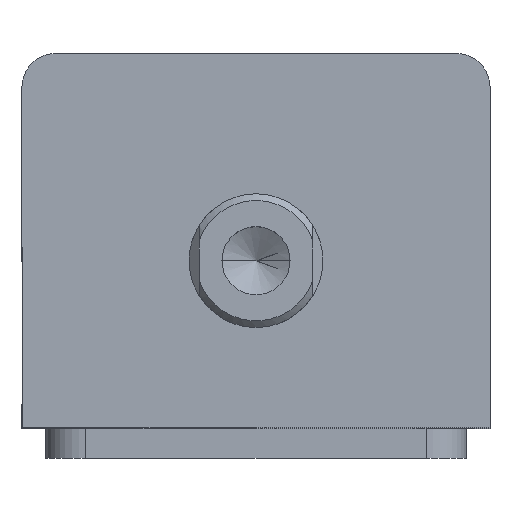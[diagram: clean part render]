
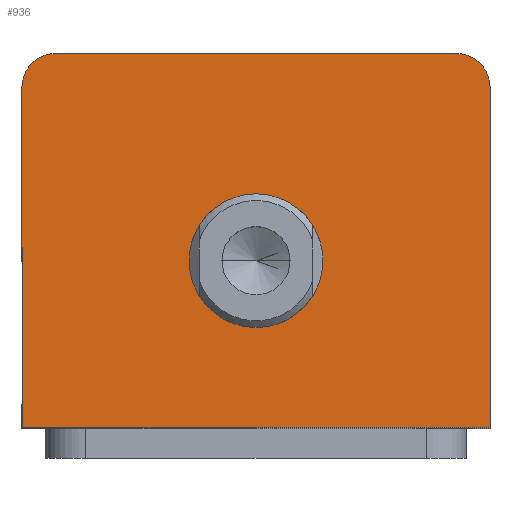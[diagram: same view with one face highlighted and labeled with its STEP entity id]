
A CAD part, top view. The second image highlights one B-rep face of the part: STEP entity #936.
In plain terms, the highlighted planar face has unit normal (0, 0, 1).
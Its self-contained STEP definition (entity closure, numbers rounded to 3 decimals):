
#16 = EDGE_LOOP ( 'NONE', ( #126, #1274, #85, #98, #1507, #1490 ) ) ;
#77 = ORIENTED_EDGE ( 'NONE', *, *, #2068, .F. ) ;
#85 = ORIENTED_EDGE ( 'NONE', *, *, #2054, .T. ) ;
#98 = ORIENTED_EDGE ( 'NONE', *, *, #1956, .T. ) ;
#126 = ORIENTED_EDGE ( 'NONE', *, *, #1972, .T. ) ;
#290 = AXIS2_PLACEMENT_3D ( 'NONE', #1710, #1708, #1706 ) ;
#304 = AXIS2_PLACEMENT_3D ( 'NONE', #1801, #1799, #1798 ) ;
#334 = AXIS2_PLACEMENT_3D ( 'NONE', #995, #994, #993 ) ;
#347 = AXIS2_PLACEMENT_3D ( 'NONE', #989, #991, #1251 ) ;
#505 = CARTESIAN_POINT ( 'NONE',  ( 30., 28., 74. ) ) ;
#516 = CARTESIAN_POINT ( 'NONE',  ( 35., 23., 74. ) ) ;
#545 = CARTESIAN_POINT ( 'NONE',  ( -35., 23., 74. ) ) ;
#546 = CARTESIAN_POINT ( 'NONE',  ( 35., -28., 74. ) ) ;
#585 = CARTESIAN_POINT ( 'NONE',  ( -30., 28., 74. ) ) ;
#621 = CARTESIAN_POINT ( 'NONE',  ( 10., -3., 74. ) ) ;
#624 = CARTESIAN_POINT ( 'NONE',  ( -35., -28., 74. ) ) ;
#629 = CARTESIAN_POINT ( 'NONE',  ( -10., -3., 74. ) ) ;
#739 = EDGE_LOOP ( 'NONE', ( #77, #1485 ) ) ;
#936 = ADVANCED_FACE ( 'NONE', ( #3043, #3047 ), #1244, .T. ) ;
#989 = CARTESIAN_POINT ( 'NONE',  ( -30., 23., 74. ) ) ;
#991 = DIRECTION ( 'NONE',  ( 0., 0., 1. ) ) ;
#993 = DIRECTION ( 'NONE',  ( 1., 0., 0. ) ) ;
#994 = DIRECTION ( 'NONE',  ( 0., 0., 1. ) ) ;
#995 = CARTESIAN_POINT ( 'NONE',  ( 30., 23., 74. ) ) ;
#1027 = DIRECTION ( 'NONE',  ( 0., 1., 0. ) ) ;
#1123 = DIRECTION ( 'NONE',  ( 1., 0., 0. ) ) ;
#1125 = DIRECTION ( 'NONE',  ( 0., 0., 1. ) ) ;
#1131 = CARTESIAN_POINT ( 'NONE',  ( 0., 0., 74. ) ) ;
#1203 = CARTESIAN_POINT ( 'NONE',  ( 35., 28., 74. ) ) ;
#1244 = PLANE ( 'NONE',  #2372 ) ;
#1251 = DIRECTION ( 'NONE',  ( 1., 0., 0. ) ) ;
#1274 = ORIENTED_EDGE ( 'NONE', *, *, #1979, .T. ) ;
#1485 = ORIENTED_EDGE ( 'NONE', *, *, #2098, .F. ) ;
#1490 = ORIENTED_EDGE ( 'NONE', *, *, #2031, .T. ) ;
#1507 = ORIENTED_EDGE ( 'NONE', *, *, #2036, .T. ) ;
#1706 = DIRECTION ( 'NONE',  ( 1., 0., 0. ) ) ;
#1708 = DIRECTION ( 'NONE',  ( 0., 0., 1. ) ) ;
#1710 = CARTESIAN_POINT ( 'NONE',  ( 0., -3., 74. ) ) ;
#1798 = DIRECTION ( 'NONE',  ( 1., 0., 0. ) ) ;
#1799 = DIRECTION ( 'NONE',  ( 0., 0., 1. ) ) ;
#1801 = CARTESIAN_POINT ( 'NONE',  ( 0., -3., 74. ) ) ;
#1838 = DIRECTION ( 'NONE',  ( -1., 0., 0. ) ) ;
#1839 = CARTESIAN_POINT ( 'NONE',  ( -35., 28., 74. ) ) ;
#1888 = DIRECTION ( 'NONE',  ( 0., -1., 0. ) ) ;
#1891 = CARTESIAN_POINT ( 'NONE',  ( -35., 28., 74. ) ) ;
#1905 = DIRECTION ( 'NONE',  ( 1., 0., 0. ) ) ;
#1907 = CARTESIAN_POINT ( 'NONE',  ( -35., -28., 74. ) ) ;
#1956 = EDGE_CURVE ( 'NONE', #2903, #2937, #2529, .T. ) ;
#1972 = EDGE_CURVE ( 'NONE', #2936, #2959, #2555, .T. ) ;
#1979 = EDGE_CURVE ( 'NONE', #2959, #2969, #2563, .T. ) ;
#2031 = EDGE_CURVE ( 'NONE', #2871, #2936, #2647, .T. ) ;
#2036 = EDGE_CURVE ( 'NONE', #2937, #2871, #2655, .T. ) ;
#2054 = EDGE_CURVE ( 'NONE', #2969, #2903, #2688, .T. ) ;
#2068 = EDGE_CURVE ( 'NONE', #2873, #2867, #2712, .T. ) ;
#2098 = EDGE_CURVE ( 'NONE', #2867, #2873, #2757, .T. ) ;
#2372 = AXIS2_PLACEMENT_3D ( 'NONE', #1131, #1125, #1123 ) ;
#2529 = CIRCLE ( 'NONE', #347, 5. ) ;
#2555 = LINE ( 'NONE', #1203, #2558 ) ;
#2558 = VECTOR ( 'NONE', #1027, 1000. ) ;
#2563 = CIRCLE ( 'NONE', #334, 5. ) ;
#2647 = LINE ( 'NONE', #1907, #2650 ) ;
#2650 = VECTOR ( 'NONE', #1905, 1000. ) ;
#2655 = LINE ( 'NONE', #1891, #2658 ) ;
#2658 = VECTOR ( 'NONE', #1888, 1000. ) ;
#2688 = LINE ( 'NONE', #1839, #2691 ) ;
#2691 = VECTOR ( 'NONE', #1838, 1000. ) ;
#2712 = CIRCLE ( 'NONE', #304, 10. ) ;
#2757 = CIRCLE ( 'NONE', #290, 10. ) ;
#2867 = VERTEX_POINT ( 'NONE', #629 ) ;
#2871 = VERTEX_POINT ( 'NONE', #624 ) ;
#2873 = VERTEX_POINT ( 'NONE', #621 ) ;
#2903 = VERTEX_POINT ( 'NONE', #585 ) ;
#2936 = VERTEX_POINT ( 'NONE', #546 ) ;
#2937 = VERTEX_POINT ( 'NONE', #545 ) ;
#2959 = VERTEX_POINT ( 'NONE', #516 ) ;
#2969 = VERTEX_POINT ( 'NONE', #505 ) ;
#3043 = FACE_BOUND ( 'NONE', #739, .T. ) ;
#3047 = FACE_OUTER_BOUND ( 'NONE', #16, .T. ) ;
